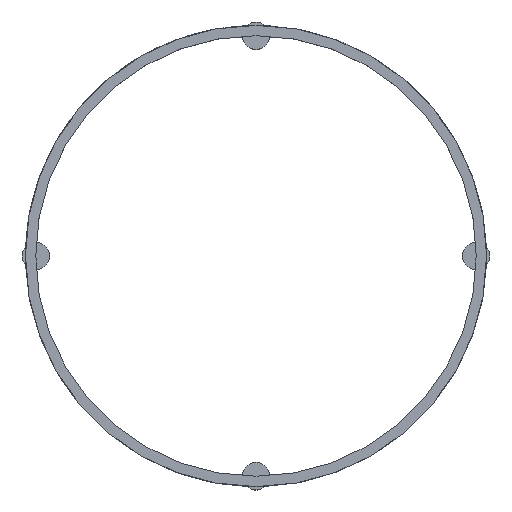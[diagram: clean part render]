
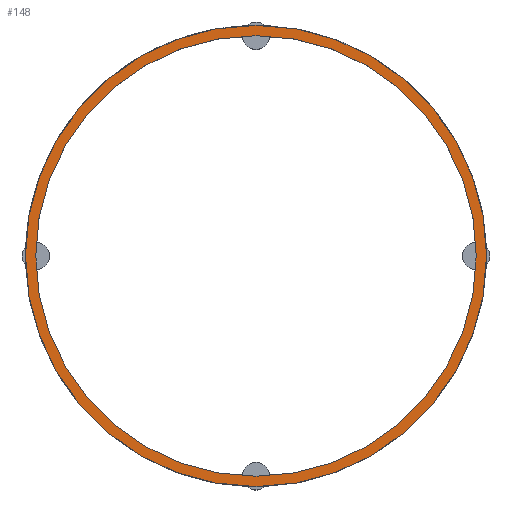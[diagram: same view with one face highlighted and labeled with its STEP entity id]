
A CAD part, top view. The second image highlights one B-rep face of the part: STEP entity #148.
In plain terms, the highlighted planar face has unit normal (0, 0, 1).
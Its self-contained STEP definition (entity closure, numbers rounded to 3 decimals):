
#103=PLANE('',#738);
#127=FACE_BOUND('',#245,.T.);
#128=FACE_BOUND('',#246,.T.);
#148=ADVANCED_FACE('',(#127,#128),#103,.T.);
#245=EDGE_LOOP('',(#375));
#246=EDGE_LOOP('',(#376));
#375=ORIENTED_EDGE('',*,*,#534,.F.);
#376=ORIENTED_EDGE('',*,*,#587,.T.);
#482=VERTEX_POINT('',#1040);
#527=VERTEX_POINT('',#1150);
#534=EDGE_CURVE('',#482,#482,#616,.T.);
#587=EDGE_CURVE('',#527,#527,#655,.T.);
#616=CIRCLE('',#686,32.);
#655=CIRCLE('',#737,33.5);
#686=AXIS2_PLACEMENT_3D('',#1039,#803,#804);
#737=AXIS2_PLACEMENT_3D('',#1149,#919,#920);
#738=AXIS2_PLACEMENT_3D('',#1151,#921,#922);
#803=DIRECTION('',(0.,0.,1.));
#804=DIRECTION('',(1.,0.,0.));
#919=DIRECTION('',(0.,0.,1.));
#920=DIRECTION('',(1.,0.,0.));
#921=DIRECTION('',(0.,0.,1.));
#922=DIRECTION('',(1.,0.,0.));
#1039=CARTESIAN_POINT('',(0.,0.,6.));
#1040=CARTESIAN_POINT('',(32.,0.,6.));
#1149=CARTESIAN_POINT('',(0.,0.,6.));
#1150=CARTESIAN_POINT('',(33.5,0.,6.));
#1151=CARTESIAN_POINT('',(0.,0.,6.));
